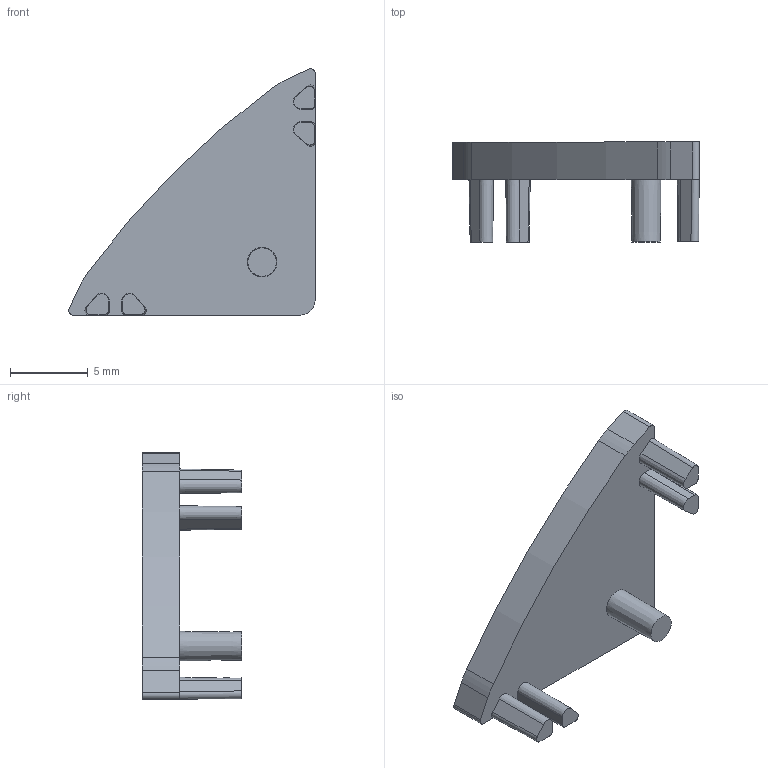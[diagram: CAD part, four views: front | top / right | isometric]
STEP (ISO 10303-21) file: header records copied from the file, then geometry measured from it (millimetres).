
FILE_DESCRIPTION(/* description */ (''),/* implementation_level */ '2;1');
FILE_NAME(/* name */ 'D:\$Workingspace\Designs\Profile\137 - Profil LED nakładany mały\MOOV pliki\pliki 3ds\PA-ZASGLAXKT-00.stp',/* time_stamp */ '2018-01-10T10:53:49+01:00',/* author */ ('tomaszw'),/* organization */ (''),/* preprocessor_version */ 'ST-DEVELOPER v16.1',/* originating_system */ 'Autodesk Inventor 2016',/* authorisation */ '');
FILE_SCHEMA (('CONFIG_CONTROL_DESIGN'));
Length unit declared in the file: millimetre
Products named in the file (1): End Cap for LED Rails - corner 2014-10-27 V.2
Bounding box: 15.8 x 6.4 x 15.8 mm (x, y, z)
Volume: 404.4 mm3; surface area: 534.2 mm2
Topology: 1 solids, 1 shells, 42 faces, 109 edges, 70 vertices
Faces by surface type: plane 23, cylinder 14, cone 5
Entity records: 1306 total; most frequent: DIRECTION 232, CARTESIAN_POINT 221, ORIENTED_EDGE 216, EDGE_CURVE 108, AXIS2_PLACEMENT_3D 81, LINE 70, VECTOR 70, VERTEX_POINT 70
